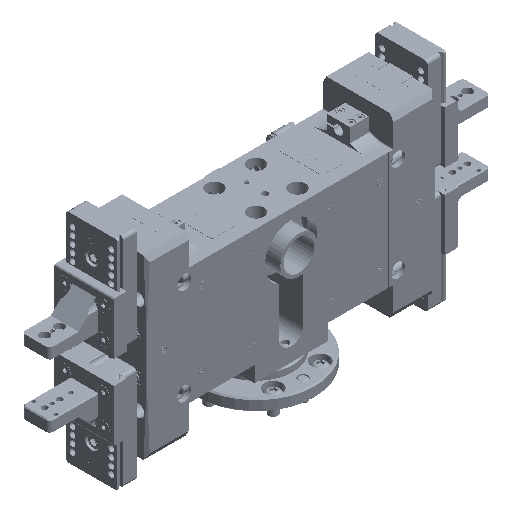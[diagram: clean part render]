
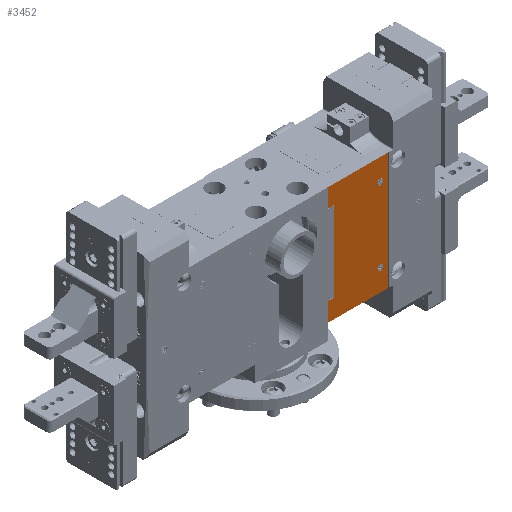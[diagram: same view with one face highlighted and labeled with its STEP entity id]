
A CAD part, isometric view. The second image highlights one B-rep face of the part: STEP entity #3452.
In plain terms, the highlighted planar face has unit normal (0, -1, 0) as drawn and (0, 0, -1) by its records, which use the part's own axes.
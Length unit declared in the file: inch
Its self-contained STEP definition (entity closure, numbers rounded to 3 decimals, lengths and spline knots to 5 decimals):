
#1341 = EDGE_LOOP ( 'NONE', ( #46693, #79402, #77190, #18698, #71801, #32691, #13791, #39485 ) ) ;
#1906 = LINE ( 'NONE', #73410, #63314 ) ;
#2291 = EDGE_LOOP ( 'NONE', ( #19325, #47264 ) ) ;
#2384 = DIRECTION ( 'NONE',  ( 0., 1., 0. ) ) ;
#2722 = DIRECTION ( 'NONE',  ( -1., 0., 0. ) ) ;
#3376 = VECTOR ( 'NONE', #39891, 39.37008 ) ;
#3452 = ADVANCED_FACE ( 'NONE', ( #35810, #16292, #61641 ), #3623, .T. ) ;
#3623 = PLANE ( 'NONE',  #46087 ) ;
#5784 = LINE ( 'NONE', #51514, #63682 ) ;
#7411 = VECTOR ( 'NONE', #55890, 39.37008 ) ;
#8471 = CARTESIAN_POINT ( 'NONE',  ( 1.24016, 1.77165, -1.17717 ) ) ;
#9319 = LINE ( 'NONE', #68537, #7411 ) ;
#9664 = CARTESIAN_POINT ( 'NONE',  ( 1.9685, 0., -1.17717 ) ) ;
#10036 = VECTOR ( 'NONE', #36557, 39.37008 ) ;
#11850 = CARTESIAN_POINT ( 'NONE',  ( 1.24016, 1.77165, -1.17717 ) ) ;
#12716 = EDGE_CURVE ( 'NONE', #27569, #44886, #5784, .T. ) ;
#13681 = CIRCLE ( 'NONE', #71803, 0.09843 ) ;
#13791 = ORIENTED_EDGE ( 'NONE', *, *, #59142, .F. ) ;
#14639 = ORIENTED_EDGE ( 'NONE', *, *, #57534, .T. ) ;
#15760 = VECTOR ( 'NONE', #2384, 39.37008 ) ;
#16292 = FACE_BOUND ( 'NONE', #18542, .T. ) ;
#17715 = CARTESIAN_POINT ( 'NONE',  ( 1.33858, 1.77165, -1.17717 ) ) ;
#17877 = LINE ( 'NONE', #44178, #10036 ) ;
#18542 = EDGE_LOOP ( 'NONE', ( #65592, #14639 ) ) ;
#18698 = ORIENTED_EDGE ( 'NONE', *, *, #49888, .F. ) ;
#18870 = VERTEX_POINT ( 'NONE', #29567 ) ;
#19325 = ORIENTED_EDGE ( 'NONE', *, *, #58906, .T. ) ;
#19894 = DIRECTION ( 'NONE',  ( 0., 0., 1. ) ) ;
#20140 = VECTOR ( 'NONE', #38245, 39.37008 ) ;
#21427 = VERTEX_POINT ( 'NONE', #71872 ) ;
#22280 = CARTESIAN_POINT ( 'NONE',  ( 1.9685, 2.04724, -1.17717 ) ) ;
#22939 = EDGE_CURVE ( 'NONE', #54903, #67131, #1906, .T. ) ;
#25759 = CARTESIAN_POINT ( 'NONE',  ( -1.33858, 1.77165, -1.17717 ) ) ;
#25931 = CARTESIAN_POINT ( 'NONE',  ( -1.9685, 0., -1.17717 ) ) ;
#25973 = CARTESIAN_POINT ( 'NONE',  ( 1.34449, 0.21654, -1.17717 ) ) ;
#27569 = VERTEX_POINT ( 'NONE', #68153 ) ;
#29015 = AXIS2_PLACEMENT_3D ( 'NONE', #39168, #57825, #31968 ) ;
#29432 = CARTESIAN_POINT ( 'NONE',  ( 1.9685, 0., -1.17717 ) ) ;
#29567 = CARTESIAN_POINT ( 'NONE',  ( 1.14173, 1.77165, -1.17717 ) ) ;
#31968 = DIRECTION ( 'NONE',  ( -1., 0., 0. ) ) ;
#32147 = DIRECTION ( 'NONE',  ( 0., 1., 0. ) ) ;
#32691 = ORIENTED_EDGE ( 'NONE', *, *, #54514, .F. ) ;
#33148 = LINE ( 'NONE', #25931, #20140 ) ;
#35080 = VERTEX_POINT ( 'NONE', #46691 ) ;
#35810 = FACE_OUTER_BOUND ( 'NONE', #1341, .T. ) ;
#36557 = DIRECTION ( 'NONE',  ( -1., 0., 0. ) ) ;
#36939 = CIRCLE ( 'NONE', #47768, 0.09843 ) ;
#37536 = DIRECTION ( 'NONE',  ( -1., 0., 0. ) ) ;
#38245 = DIRECTION ( 'NONE',  ( 0., -1., 0. ) ) ;
#39168 = CARTESIAN_POINT ( 'NONE',  ( -1.24016, 1.77165, -1.17717 ) ) ;
#39346 = VERTEX_POINT ( 'NONE', #17715 ) ;
#39485 = ORIENTED_EDGE ( 'NONE', *, *, #66450, .F. ) ;
#39891 = DIRECTION ( 'NONE',  ( -1., 0., 0. ) ) ;
#40297 = LINE ( 'NONE', #53449, #3376 ) ;
#40592 = VECTOR ( 'NONE', #32147, 39.37008 ) ;
#43633 = DIRECTION ( 'NONE',  ( 0., 0., 1. ) ) ;
#44178 = CARTESIAN_POINT ( 'NONE',  ( -1.9685, 2.04724, -1.17717 ) ) ;
#44886 = VERTEX_POINT ( 'NONE', #49880 ) ;
#45285 = CARTESIAN_POINT ( 'NONE',  ( -1.9685, 2.04724, -1.17717 ) ) ;
#46087 = AXIS2_PLACEMENT_3D ( 'NONE', #29432, #60802, #55305 ) ;
#46604 = DIRECTION ( 'NONE',  ( 0., 0., 1. ) ) ;
#46691 = CARTESIAN_POINT ( 'NONE',  ( 1.9685, 2.04724, -1.17717 ) ) ;
#46693 = ORIENTED_EDGE ( 'NONE', *, *, #22939, .T. ) ;
#47264 = ORIENTED_EDGE ( 'NONE', *, *, #80093, .T. ) ;
#47768 = AXIS2_PLACEMENT_3D ( 'NONE', #11850, #43633, #57193 ) ;
#49880 = CARTESIAN_POINT ( 'NONE',  ( -1.9685, 0., -1.17717 ) ) ;
#49888 = EDGE_CURVE ( 'NONE', #27569, #21427, #77852, .T. ) ;
#50694 = EDGE_CURVE ( 'NONE', #62789, #21427, #40297, .T. ) ;
#51514 = CARTESIAN_POINT ( 'NONE',  ( -1.34449, 0., -1.17717 ) ) ;
#51711 = DIRECTION ( 'NONE',  ( -1., 0., 0. ) ) ;
#52558 = CIRCLE ( 'NONE', #71439, 0.09843 ) ;
#52971 = DIRECTION ( 'NONE',  ( -1., 0., 0. ) ) ;
#53449 = CARTESIAN_POINT ( 'NONE',  ( 1.34449, 0.21654, -1.17717 ) ) ;
#54514 = EDGE_CURVE ( 'NONE', #72962, #44886, #33148, .T. ) ;
#54903 = VERTEX_POINT ( 'NONE', #9664 ) ;
#55305 = DIRECTION ( 'NONE',  ( -1., 0., 0. ) ) ;
#55890 = DIRECTION ( 'NONE',  ( 0., -1., 0. ) ) ;
#57193 = DIRECTION ( 'NONE',  ( -1., 0., 0. ) ) ;
#57534 = EDGE_CURVE ( 'NONE', #39346, #18870, #36939, .T. ) ;
#57825 = DIRECTION ( 'NONE',  ( 0., 0., 1. ) ) ;
#58433 = CARTESIAN_POINT ( 'NONE',  ( -1.34449, 0.21654, -1.17717 ) ) ;
#58492 = CARTESIAN_POINT ( 'NONE',  ( -1.24016, 1.77165, -1.17717 ) ) ;
#58906 = EDGE_CURVE ( 'NONE', #83250, #63994, #66830, .T. ) ;
#59142 = EDGE_CURVE ( 'NONE', #35080, #72962, #17877, .T. ) ;
#60802 = DIRECTION ( 'NONE',  ( 0., 0., -1. ) ) ;
#61641 = FACE_BOUND ( 'NONE', #2291, .T. ) ;
#62789 = VERTEX_POINT ( 'NONE', #25973 ) ;
#63314 = VECTOR ( 'NONE', #2722, 39.37008 ) ;
#63682 = VECTOR ( 'NONE', #37536, 39.37008 ) ;
#63994 = VERTEX_POINT ( 'NONE', #67006 ) ;
#65592 = ORIENTED_EDGE ( 'NONE', *, *, #68663, .T. ) ;
#66450 = EDGE_CURVE ( 'NONE', #54903, #35080, #79416, .T. ) ;
#66830 = CIRCLE ( 'NONE', #29015, 0.09843 ) ;
#67006 = CARTESIAN_POINT ( 'NONE',  ( -1.14173, 1.77165, -1.17717 ) ) ;
#67131 = VERTEX_POINT ( 'NONE', #70811 ) ;
#68153 = CARTESIAN_POINT ( 'NONE',  ( -1.34449, 0., -1.17717 ) ) ;
#68537 = CARTESIAN_POINT ( 'NONE',  ( 1.34449, 0., -1.17717 ) ) ;
#68663 = EDGE_CURVE ( 'NONE', #18870, #39346, #52558, .T. ) ;
#70811 = CARTESIAN_POINT ( 'NONE',  ( 1.34449, 0., -1.17717 ) ) ;
#71439 = AXIS2_PLACEMENT_3D ( 'NONE', #8471, #46604, #52971 ) ;
#71801 = ORIENTED_EDGE ( 'NONE', *, *, #12716, .T. ) ;
#71803 = AXIS2_PLACEMENT_3D ( 'NONE', #58492, #19894, #51711 ) ;
#71872 = CARTESIAN_POINT ( 'NONE',  ( -1.34449, 0.21654, -1.17717 ) ) ;
#71880 = EDGE_CURVE ( 'NONE', #62789, #67131, #9319, .T. ) ;
#72962 = VERTEX_POINT ( 'NONE', #45285 ) ;
#73410 = CARTESIAN_POINT ( 'NONE',  ( 1.9685, 0., -1.17717 ) ) ;
#77190 = ORIENTED_EDGE ( 'NONE', *, *, #50694, .T. ) ;
#77852 = LINE ( 'NONE', #58433, #40592 ) ;
#79402 = ORIENTED_EDGE ( 'NONE', *, *, #71880, .F. ) ;
#79416 = LINE ( 'NONE', #22280, #15760 ) ;
#80093 = EDGE_CURVE ( 'NONE', #63994, #83250, #13681, .T. ) ;
#83250 = VERTEX_POINT ( 'NONE', #25759 ) ;
